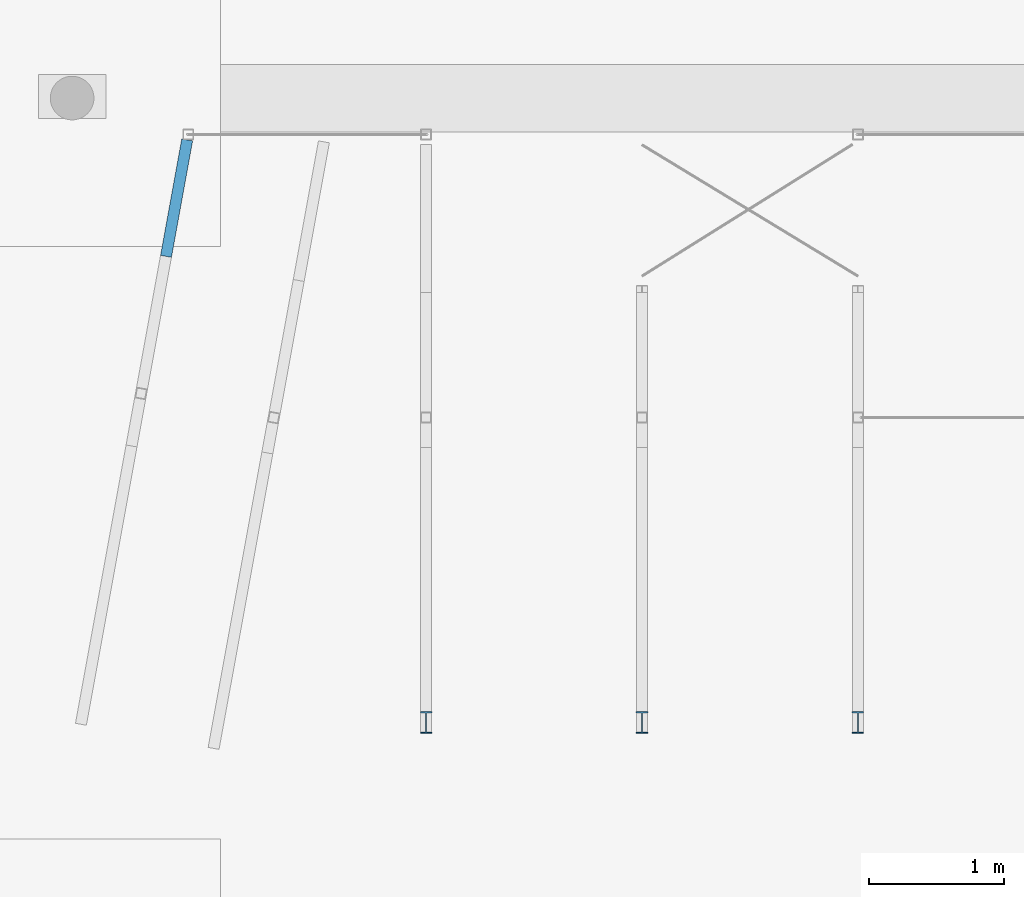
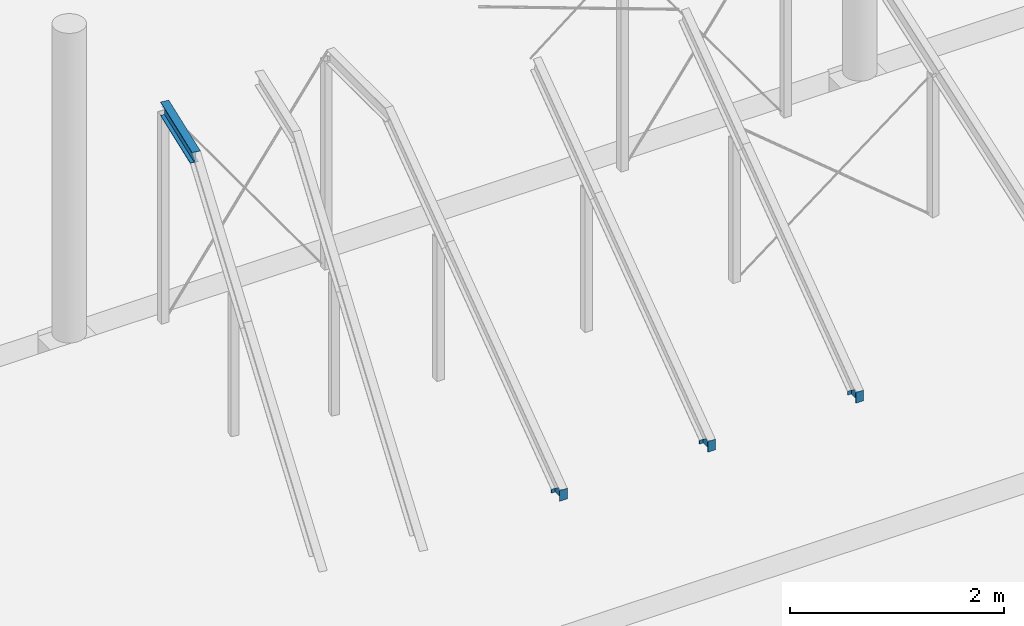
# One storey, part 12 of 17: 4 beams.
"""IFC2X3 building model written with IfcOpenShell, lengths in millimetres."""

from ifc_helpers import new_model, entity, si_unit, converted_unit, derived_unit, direction, frame, frame_2d, origin, origin_2d_with_axis, place, context, subcontext, project, spatial, i_section, extrude, clip, halfspace, material, type_object, element, save


model = new_model("IFC2X3")

# Units and contexts
model_context = context("Model", 3, precision=0.01, world=origin(), true_north=direction((6.123031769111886e-17, 1.0)))
body_context = subcontext(model_context, "Body", "Model", "MODEL_VIEW")
ifc_project = project(units=[si_unit("LENGTHUNIT", "METRE", prefix="MILLI"), si_unit("AREAUNIT", "SQUARE_METRE", prefix="MILLI"), si_unit("VOLUMEUNIT", "CUBIC_METRE"), converted_unit("PLANEANGLEUNIT", "DEGREE", entity("IfcPlaneAngleMeasure", 0.017453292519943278), si_unit("PLANEANGLEUNIT", "RADIAN"), dimensions=[0, 0, 0, 0, 0, 0, 0]), si_unit("MASSUNIT", "GRAM", prefix="KILO"), derived_unit("MASSDENSITYUNIT", [(si_unit("MASSUNIT", "GRAM", prefix="KILO"), 1), (si_unit("LENGTHUNIT", "METRE"), -3)]), derived_unit("IONCONCENTRATIONUNIT", [(si_unit("MASSUNIT", "GRAM", prefix="KILO"), 1), (si_unit("LENGTHUNIT", "METRE"), -3)]), derived_unit("MOMENTOFINERTIAUNIT", [(si_unit("LENGTHUNIT", "METRE"), 4)]), si_unit("TIMEUNIT", "SECOND"), si_unit("FREQUENCYUNIT", "HERTZ"), si_unit("THERMODYNAMICTEMPERATUREUNIT", "DEGREE_CELSIUS"), derived_unit("THERMALTRANSMITTANCEUNIT", [(si_unit("MASSUNIT", "GRAM", prefix="KILO"), 1), (si_unit("THERMODYNAMICTEMPERATUREUNIT", "KELVIN"), -1), (si_unit("TIMEUNIT", "SECOND"), -3)]), derived_unit("THERMALCONDUCTANCEUNIT", [(si_unit("MASSUNIT", "GRAM", prefix="KILO"), 1), (si_unit("THERMODYNAMICTEMPERATUREUNIT", "KELVIN"), -1), (si_unit("TIMEUNIT", "SECOND"), -3), (si_unit("LENGTHUNIT", "METRE"), 1)]), derived_unit("VOLUMETRICFLOWRATEUNIT", [(si_unit("LENGTHUNIT", "METRE", prefix="DECI"), 3), (si_unit("TIMEUNIT", "SECOND"), -1)]), derived_unit("MASSFLOWRATEUNIT", [(si_unit("MASSUNIT", "GRAM", prefix="KILO"), 1), (si_unit("TIMEUNIT", "SECOND"), -1)]), derived_unit("ROTATIONALFREQUENCYUNIT", [(si_unit("TIMEUNIT", "SECOND"), -1)]), si_unit("ELECTRICCURRENTUNIT", "AMPERE"), si_unit("ELECTRICVOLTAGEUNIT", "VOLT"), si_unit("POWERUNIT", "WATT"), si_unit("FORCEUNIT", "NEWTON", prefix="KILO"), si_unit("ILLUMINANCEUNIT", "LUX"), si_unit("LUMINOUSFLUXUNIT", "LUMEN"), si_unit("LUMINOUSINTENSITYUNIT", "CANDELA"), si_unit("ENERGYUNIT", "JOULE"), derived_unit("USERDEFINED", [(si_unit("MASSUNIT", "GRAM", prefix="KILO"), -1), (si_unit("LENGTHUNIT", "METRE"), -2), (si_unit("TIMEUNIT", "SECOND"), 3), (si_unit("LUMINOUSFLUXUNIT", "LUMEN"), 1)]), derived_unit("USERDEFINED", [(si_unit("MASSUNIT", "GRAM", prefix="KILO"), 1), (si_unit("TIMEUNIT", "SECOND"), -3), (si_unit("LENGTHUNIT", "METRE"), 3), (si_unit("ELECTRICCURRENTUNIT", "AMPERE"), -2)]), derived_unit("SOUNDPOWERUNIT", [(si_unit("MASSUNIT", "GRAM", prefix="KILO"), 1), (si_unit("TIMEUNIT", "SECOND"), -3), (si_unit("LENGTHUNIT", "METRE"), 2)]), derived_unit("SOUNDPRESSUREUNIT", [(si_unit("MASSUNIT", "GRAM", prefix="KILO"), 1), (si_unit("LENGTHUNIT", "METRE"), -1), (si_unit("TIMEUNIT", "SECOND"), -2)]), derived_unit("LINEARVELOCITYUNIT", [(si_unit("LENGTHUNIT", "METRE"), 1), (si_unit("TIMEUNIT", "SECOND"), -1)]), si_unit("PRESSUREUNIT", "PASCAL"), derived_unit("USERDEFINED", [(si_unit("MASSUNIT", "GRAM", prefix="KILO"), 1), (si_unit("LENGTHUNIT", "METRE"), -2), (si_unit("TIMEUNIT", "SECOND"), -2)]), derived_unit("LINEARFORCEUNIT", [(si_unit("MASSUNIT", "GRAM", prefix="KILO"), 1), (si_unit("TIMEUNIT", "SECOND"), -2)]), derived_unit("PLANARFORCEUNIT", [(si_unit("MASSUNIT", "GRAM", prefix="KILO"), 1), (si_unit("LENGTHUNIT", "METRE"), -1), (si_unit("TIMEUNIT", "SECOND"), -2)]), derived_unit("SPECIFICHEATCAPACITYUNIT", [(si_unit("THERMODYNAMICTEMPERATUREUNIT", "KELVIN"), -1), (si_unit("LENGTHUNIT", "METRE"), 2), (si_unit("TIMEUNIT", "SECOND"), -2)]), derived_unit("HEATFLUXDENSITYUNIT", [(si_unit("MASSUNIT", "GRAM", prefix="KILO"), 1), (si_unit("TIMEUNIT", "SECOND"), -3)]), derived_unit("HEATINGVALUEUNIT", [(si_unit("LENGTHUNIT", "METRE"), 2), (si_unit("TIMEUNIT", "SECOND"), -2)]), derived_unit("VAPORPERMEABILITYUNIT", [(si_unit("LENGTHUNIT", "METRE"), -1), (si_unit("TIMEUNIT", "SECOND"), 1)]), derived_unit("DYNAMICVISCOSITYUNIT", [(si_unit("MASSUNIT", "GRAM", prefix="KILO"), 1), (si_unit("TIMEUNIT", "SECOND"), -1), (si_unit("LENGTHUNIT", "METRE"), -1)]), derived_unit("THERMALEXPANSIONCOEFFICIENTUNIT", [(si_unit("THERMODYNAMICTEMPERATUREUNIT", "KELVIN"), -1)]), derived_unit("MODULUSOFELASTICITYUNIT", [(si_unit("MASSUNIT", "GRAM", prefix="KILO"), 1), (si_unit("LENGTHUNIT", "METRE"), -1), (si_unit("TIMEUNIT", "SECOND"), -2)]), derived_unit("ISOTHERMALMOISTURECAPACITYUNIT", [(si_unit("MASSUNIT", "GRAM", prefix="KILO"), -1), (si_unit("LENGTHUNIT", "METRE"), 3)]), derived_unit("MOISTUREDIFFUSIVITYUNIT", [(si_unit("TIMEUNIT", "SECOND"), -1), (si_unit("LENGTHUNIT", "METRE"), 2)]), derived_unit("MASSPERLENGTHUNIT", [(si_unit("MASSUNIT", "GRAM", prefix="KILO"), 1), (si_unit("LENGTHUNIT", "METRE"), -1)]), derived_unit("THERMALRESISTANCEUNIT", [(si_unit("MASSUNIT", "GRAM", prefix="KILO"), -1), (si_unit("TIMEUNIT", "SECOND"), 3), (si_unit("THERMODYNAMICTEMPERATUREUNIT", "KELVIN"), 1)]), derived_unit("ACCELERATIONUNIT", [(si_unit("LENGTHUNIT", "METRE"), 1), (si_unit("TIMEUNIT", "SECOND"), -2)]), derived_unit("ANGULARVELOCITYUNIT", [(si_unit("TIMEUNIT", "SECOND"), -1), (si_unit("PLANEANGLEUNIT", "RADIAN"), 1)]), derived_unit("LINEARSTIFFNESSUNIT", [(si_unit("MASSUNIT", "GRAM", prefix="KILO"), 1), (si_unit("TIMEUNIT", "SECOND"), -2)]), derived_unit("WARPINGCONSTANTUNIT", [(si_unit("LENGTHUNIT", "METRE"), 6)]), derived_unit("LINEARMOMENTUNIT", [(si_unit("MASSUNIT", "GRAM", prefix="KILO"), 1), (si_unit("LENGTHUNIT", "METRE"), 1), (si_unit("TIMEUNIT", "SECOND"), -2)]), derived_unit("TORQUEUNIT", [(si_unit("MASSUNIT", "GRAM", prefix="KILO"), 1), (si_unit("LENGTHUNIT", "METRE"), 2), (si_unit("TIMEUNIT", "SECOND"), -2)])], contexts=[model_context])

# Site, building, storey
site_placement = place(None, origin())
site = spatial("IfcSite", under=ifc_project, at=site_placement, Name="Default", CompositionType="ELEMENT")
building_placement = place(site_placement, origin())
building = spatial("IfcBuilding", under=site, at=building_placement, CompositionType="ELEMENT")
storey_placement = place(building_placement, frame((0.0, 0.0, -70.0)))
storey = spatial("IfcBuildingStorey", under=building, at=storey_placement, Name="F1 begg (bk ruwe vloer)", CompositionType="ELEMENT", Elevation=-69.99999999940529)

# Beams
ifc_material = material(Name="Metal - Steel - S235 JRG2 (standaard)")
beam_type = type_object("IfcBeamType", Name="btl_staal - IPE:IPE160", PredefinedType="NOTDEFINED")
beam_1_placement = place(storey_placement, frame((15553.076424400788, 31627.561065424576, 2542.599999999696), z_axis=(0.0, 0.0, 1.0), x_axis=(-0.17892912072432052, -0.983861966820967, 0.0)))
element("IfcBeam", 1, at=beam_1_placement, inside=storey, type_object=beam_type, material=ifc_material, Name="btl_staal - IPE:IPE160", ObjectType="btl_staal - IPE:IPE160", context=body_context, shape_type="SweptSolid", body=[
    clip(extrude(i_section(OverallWidth=82.00000000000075, OverallDepth=160.00000000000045, WebThickness=5.000000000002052, FlangeThickness=7.400000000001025, at=frame_2d((0.0, 1.0658141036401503e-12), x_axis=(0.0, 1.0))), frame((0.0, 0.0, -80.0), z_axis=(1.0, 0.0, 0.0), x_axis=(0.0, 0.0, -1.0)), (0.0, 0.0, 1.0), 877.7219335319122), halfspace(frame((827.219297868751, 0.0, -160.0), z_axis=(0.953623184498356, 0.0, -0.3010030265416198), x_axis=(-0.0164527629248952, 0.9985050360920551, -0.05212484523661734)), False)),
])
beam_2_placement = place(storey_placement, frame((17324.691481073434, 27226.347803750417, 170.0), z_axis=(1.0, 0.0, 0.0), x_axis=(0.0, 0.0, -1.0)))
element("IfcBeam", 2, at=beam_2_placement, inside=storey, type_object=beam_type, material=ifc_material, Name="btl_staal - IPE:IPE160", ObjectType="btl_staal - IPE:IPE160", context=body_context, shape_type="SweptSolid", body=[
    clip(extrude(i_section(OverallWidth=81.99999999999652, OverallDepth=159.99999999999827, WebThickness=5.0000000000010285, FlangeThickness=7.400000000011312, at=origin_2d_with_axis()), frame((18.82180072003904, 80.0, 0.0), z_axis=(1.0, 0.0, 0.0), x_axis=(0.0, 0.0, -1.0)), (0.0, 0.0, 1.0), 121.17819927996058), halfspace(frame((18.821800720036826, 0.0, 160.0), z_axis=(-0.8917850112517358, 0.4524593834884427, 0.0), x_axis=(0.0, 0.0, -1.0)), False)),
])
beam_3_placement = place(storey_placement, frame((18925.64327036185, 27226.34780375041, 170.0), z_axis=(1.0, 0.0, 0.0), x_axis=(0.0, 0.0, -1.0)))
element("IfcBeam", 3, at=beam_3_placement, inside=storey, type_object=beam_type, material=ifc_material, Name="btl_staal - IPE:IPE160", ObjectType="btl_staal - IPE:IPE160", context=body_context, shape_type="SweptSolid", body=[
    clip(extrude(i_section(OverallWidth=81.99999999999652, OverallDepth=159.99999999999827, WebThickness=5.0000000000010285, FlangeThickness=7.400000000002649, at=frame_2d((-2.163602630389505e-12, 0.0), x_axis=(1.0, 0.0))), frame((18.821800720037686, 80.0, 0.0), z_axis=(1.0, 0.0, 0.0), x_axis=(0.0, 0.0, -1.0)), (0.0, 0.0, 1.0), 121.17819927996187), halfspace(frame((18.82180072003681, 0.0, 160.0), z_axis=(-0.8917850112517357, 0.4524593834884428, 0.0), x_axis=(0.0, 0.0, -1.0)), False)),
])
beam_4_placement = place(storey_placement, frame((20526.595059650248, 27226.347803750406, 170.0), z_axis=(1.0, 0.0, 0.0), x_axis=(0.0, 0.0, -1.0)))
element("IfcBeam", 4, at=beam_4_placement, inside=storey, type_object=beam_type, material=ifc_material, Name="btl_staal - IPE:IPE160", ObjectType="btl_staal - IPE:IPE160", context=body_context, shape_type="SweptSolid", body=[
    clip(extrude(i_section(OverallWidth=81.99999999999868, OverallDepth=159.9999999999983, WebThickness=4.999999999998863, FlangeThickness=7.4000000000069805, at=frame_2d((4.330757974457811e-12, 4.32720526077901e-12), x_axis=(1.0, 0.0))), frame((18.821800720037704, 80.0, 0.0), z_axis=(1.0, 0.0, 0.0), x_axis=(0.0, 0.0, -1.0)), (0.0, 0.0, 1.0), 121.17819927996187), halfspace(frame((18.82180072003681, 0.0, 160.0), z_axis=(-0.8917850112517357, 0.4524593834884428, 0.0), x_axis=(0.0, 0.0, -1.0)), False)),
])

save(model, "model.ifc")
